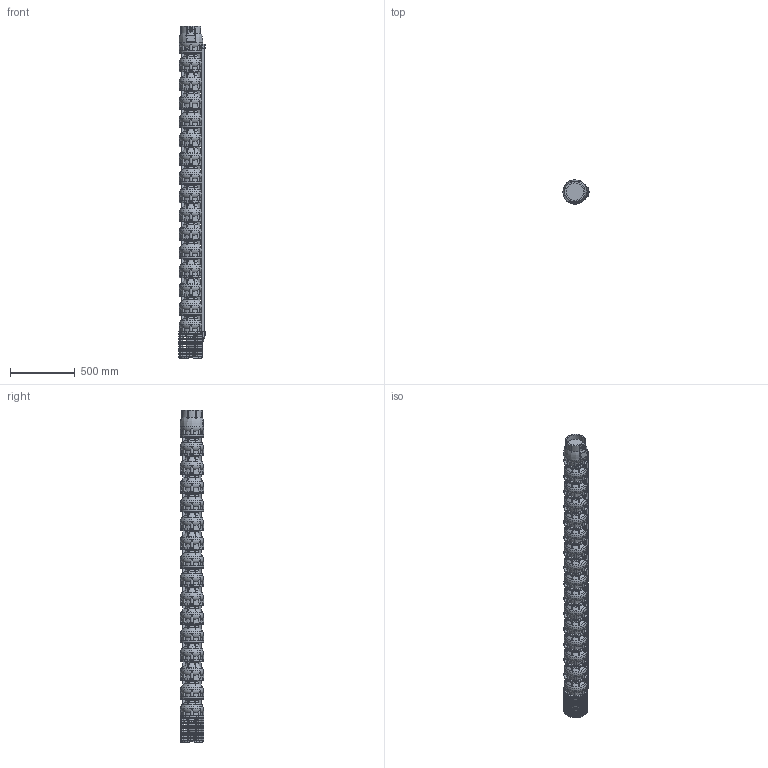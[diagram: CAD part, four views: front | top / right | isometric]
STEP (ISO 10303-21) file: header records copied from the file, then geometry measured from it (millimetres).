
FILE_DESCRIPTION(/* description */ ('Unknown'),/* implementation_level */ '2;1');
FILE_NAME(/* name */ 'VSI134-15_WR_M8-50_DLE',/* time_stamp */ '2023-09-14T14:33:26+02:00',/* author */ ('Unknown'),/* organization */ ('Unknown'),/* preprocessor_version */ 'ST-DEVELOPER v18.102',/* originating_system */ 'Solid Edge',/* authorisation */ 'Unknown');
FILE_SCHEMA (('AUTOMOTIVE_DESIGN {1 0 10303 214 3 1 1}'));
Products named in the file (11): VSI134-15_WR_M8-50_DLE; VSI134_testata; VSI134_diffusore; VSI134_supporto_8×8; VSI134_filtro_A; VSI134_filtro_B; VSI134_terminale_top_copricavo_basso; VSI134_terminale_bottom_copricavo_basso; LOW 134-15; M5X8_UNI7687; VSI134_giunto_8×8
Assembly tree (33 placements, depth 2):
  VSI134-15_WR_M8-50_DLE
    VSI134_testata
    VSI134_diffusore  x15
    VSI134_supporto_8×8
    VSI134_filtro_A
    VSI134_filtro_B
    VSI134_terminale_top_copricavo_basso
    VSI134_terminale_bottom_copricavo_basso
    LOW 134-15
    M5X8_UNI7687  x10
    VSI134_giunto_8×8
Bounding box: 201.57 x 183.52 x 2572 mm (x, y, z)
Volume: 47446058.2 mm3; surface area: 3432127.6 mm2
Topology: 72 solids, 74 shells, 4965 faces, 14029 edges, 9369 vertices
Faces by surface type: plane 3525, torus 699, cylinder 632, cone 66, bspline 31, sphere 12
Full cylindrical faces by diameter (mm): 2.4 x2, 3 x2, 4.2 x16, 5 x10, 5.5 x8, 26 x1, 44 x1, 69 x1, 74 x1, 98 x1, 135.472 x1, 157 x1, 182 x16
Entity records: 85577 total; most frequent: CARTESIAN_POINT 18366, ORIENTED_EDGE 14056, DIRECTION 13496, EDGE_CURVE 7028, VERTEX_POINT 4730, AXIS2_PLACEMENT_3D 4599, LINE 4298, VECTOR 4298
